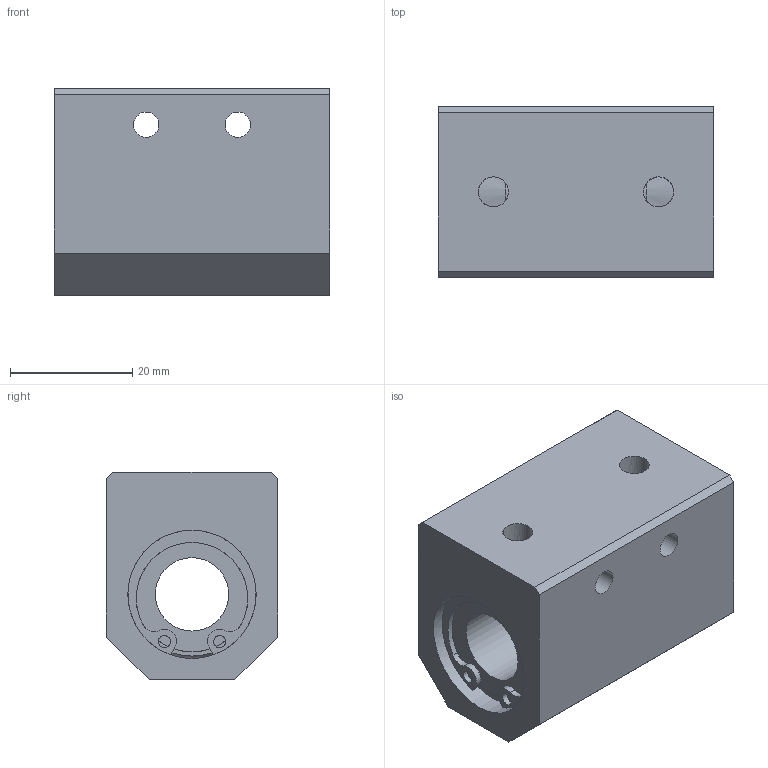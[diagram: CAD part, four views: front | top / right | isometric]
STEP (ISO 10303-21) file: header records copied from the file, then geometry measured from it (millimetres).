
FILE_DESCRIPTION((''),'2;1');
FILE_NAME('D:\製品 (図面)\カタログ用3D\メンテナンスフリー関連\STEP形式\CH-MF\CH12MF.stp','2010-06-01T15:28:20',('Tsuchiya'),(''),'Autodesk Inventor 10','Autodesk Inventor 10','');
FILE_SCHEMA(('AUTOMOTIVE_DESIGN { 1 0 10303 214 1 1 1 1 }'));
Length unit declared in the file: millimetre
Products named in the file (1): CH12MF
Bounding box: 45 x 28 x 34 mm (x, y, z)
Volume: 32557.7 mm3; surface area: 10631.9 mm2
Topology: 1 solids, 1 shells, 75 faces, 199 edges, 124 vertices
Faces by surface type: plane 33, bspline 22, cylinder 18, torus 2
Full cylindrical faces by diameter (mm): 2 x2, 12 x1, 18.8 x2, 20 x2, 21 x4
Entity records: 2417 total; most frequent: CARTESIAN_POINT 717, DIRECTION 356, ORIENTED_EDGE 316, EDGE_CURVE 158, AXIS2_PLACEMENT_3D 150, EDGE_LOOP 118, VERTEX_POINT 106, CIRCLE 96
